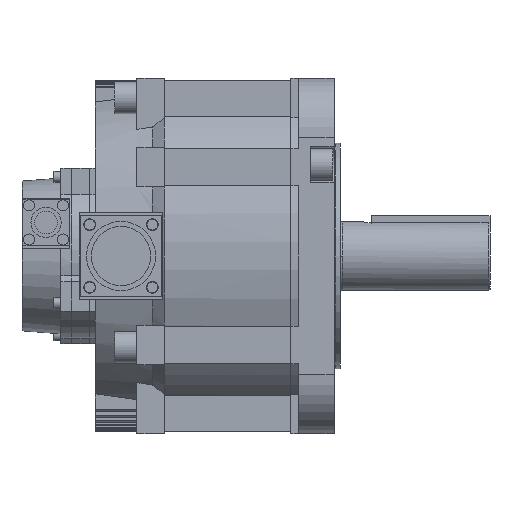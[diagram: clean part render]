
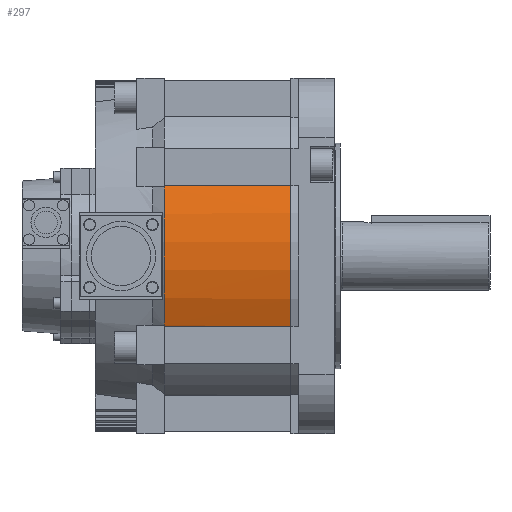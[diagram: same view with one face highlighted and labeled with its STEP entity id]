
A CAD part, front view. The second image highlights one B-rep face of the part: STEP entity #297.
In plain terms, the highlighted cylindrical face has radius 89 mm (diameter 178 mm), a partial arc.
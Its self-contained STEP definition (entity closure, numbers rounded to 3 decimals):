
#297=ADVANCED_FACE('',(#2578),#2577,.T.);
#2577=CYLINDRICAL_SURFACE('',#7727,89.);
#2578=FACE_OUTER_BOUND('',#7728,.T.);
#7724=CARTESIAN_POINT('',(-54.05,0.,0.));
#7725=DIRECTION('',(-1.,0.,0.));
#7726=DIRECTION('',(0.,0.,1.));
#7727=AXIS2_PLACEMENT_3D('',#7724,#7725,#7726);
#7728=EDGE_LOOP('',(#11052,#11053,#11054,#11055,#11056,#11057));
#11052=ORIENTED_EDGE('',*,*,#13986,.T.);
#11053=ORIENTED_EDGE('',*,*,#13987,.F.);
#11054=ORIENTED_EDGE('',*,*,#13988,.T.);
#11055=ORIENTED_EDGE('',*,*,#13989,.F.);
#11056=ORIENTED_EDGE('',*,*,#13201,.F.);
#11057=ORIENTED_EDGE('',*,*,#13990,.F.);
#13201=EDGE_CURVE('',#14955,#14962,#14963,.T.);
#13986=EDGE_CURVE('',#20289,#20290,#20291,.T.);
#13987=EDGE_CURVE('',#20297,#20290,#20298,.T.);
#13988=EDGE_CURVE('',#20297,#20304,#20305,.T.);
#13989=EDGE_CURVE('',#14962,#20304,#20311,.T.);
#13990=EDGE_CURVE('',#20289,#14955,#20317,.T.);
#14955=VERTEX_POINT('',#25678);
#14962=VERTEX_POINT('',#25683);
#14963=CIRCLE('',#25687,89.);
#20289=VERTEX_POINT('',#29066);
#20290=VERTEX_POINT('',#29067);
#20291=LINE('',#29068,#29069);
#20297=VERTEX_POINT('',#29071);
#20298=CIRCLE('',#29075,89.);
#20304=VERTEX_POINT('',#29076);
#20305=LINE('',#29077,#29078);
#20311=CIRCLE('',#29083,89.);
#20317=CIRCLE('',#29087,89.);
#25678=CARTESIAN_POINT('',(-86.,-81.829,-35.));
#25683=CARTESIAN_POINT('',(-86.,-81.829,35.));
#25684=CARTESIAN_POINT('',(-86.,0.,0.));
#25685=DIRECTION('',(-1.,0.,0.));
#25686=DIRECTION('',(0.,1.,0.));
#25687=AXIS2_PLACEMENT_3D('',#25684,#25685,#25686);
#29066=CARTESIAN_POINT('',(-86.,-81.526,-35.7));
#29067=CARTESIAN_POINT('',(-22.1,-81.526,-35.7));
#29068=CARTESIAN_POINT('',(-86.,-81.526,-35.7));
#29069=VECTOR('',#29070,63.9);
#29070=DIRECTION('',(1.,0.,0.));
#29071=CARTESIAN_POINT('',(-22.1,-81.526,35.7));
#29072=CARTESIAN_POINT('',(-22.1,0.,0.));
#29073=DIRECTION('',(1.,0.,0.));
#29074=DIRECTION('',(0.,0.916,-0.401));
#29075=AXIS2_PLACEMENT_3D('',#29072,#29073,#29074);
#29076=CARTESIAN_POINT('',(-86.,-81.526,35.7));
#29077=CARTESIAN_POINT('',(-22.1,-81.526,35.7));
#29078=VECTOR('',#29079,63.9);
#29079=DIRECTION('',(-1.,0.,0.));
#29080=CARTESIAN_POINT('',(-86.,0.,0.));
#29081=DIRECTION('',(-1.,0.,0.));
#29082=DIRECTION('',(0.,0.919,-0.393));
#29083=AXIS2_PLACEMENT_3D('',#29080,#29081,#29082);
#29084=CARTESIAN_POINT('',(-86.,0.,0.));
#29085=DIRECTION('',(-1.,0.,0.));
#29086=DIRECTION('',(0.,0.916,0.401));
#29087=AXIS2_PLACEMENT_3D('',#29084,#29085,#29086);
